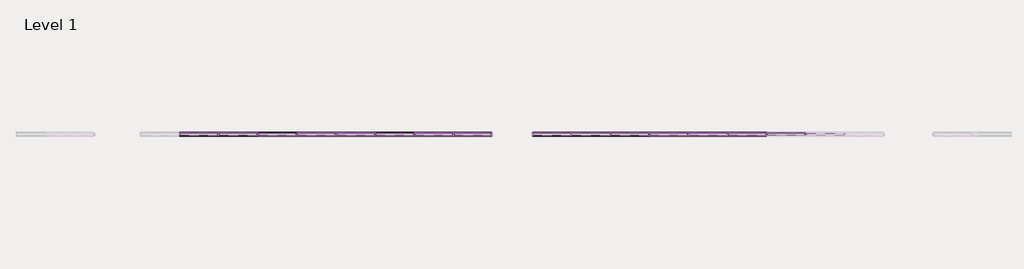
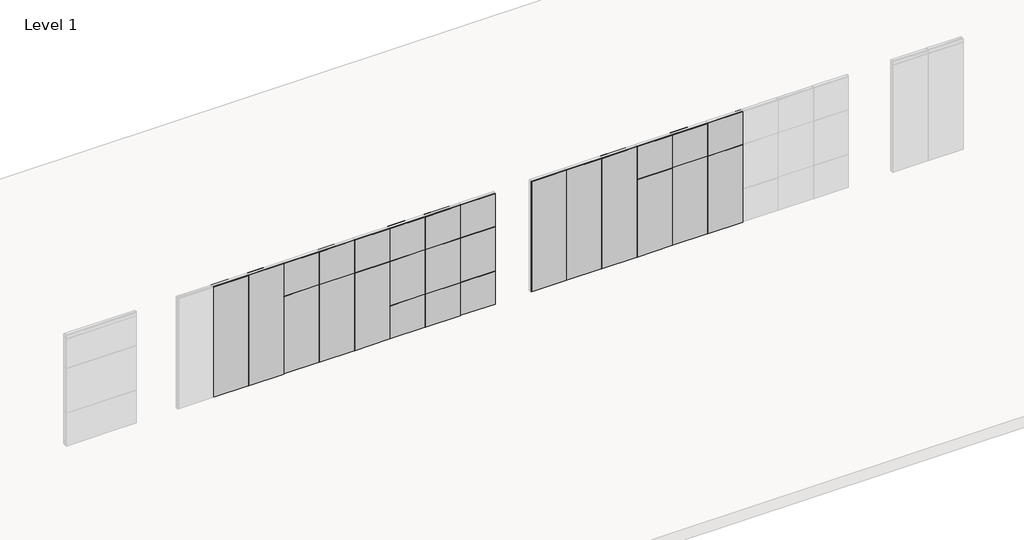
# One storey, part 9 of 22: 108 proxies.
"""IFC4 building model written with IfcOpenShell, lengths in millimetres."""

from ifc_helpers import new_model, si_unit, origin, place, context, project, spatial, transform, mapped, element, save
from components import fascia_teknion_ceiling_and_base_fpb1_33541465, fascia_teknion_ceiling_and_base_fpb1_a659cb20, fascia_teknion_ceiling_and_base_fpb1_fca0640a, fascia_teknion_ceiling_and_base_fpb1_76749516, frame_teknion_horizontal_rail_5872ae1a, frame_teknion_horizontal_rail_46ee653b, level_ii_d92933f0, level_ii_5838736d, level_ii_d9937d3a, level_ii_c8f04d20, monolithic_level_i_61e75e15, monolithic_level_i_13c59c03, monolithic_level_i_9525b381, monolithic_level_i_6e13c29d, monolithic_level_i_b876e52f, segmented_monolithic_level_i_26a9d159, segmented_monolithic_level_i_a3fcbb55, segmented_monolithic_level_i_932c30e3, segmented_monolithic_level_ii_ef75357c, segmented_monolithic_level_ii_062cb124, level_iii_17d9b208, working_wall_monolithic_level_i_ddfac440, working_wall_monolithic_level_i_34c567cd, working_wall_monolithic_level_i_759ace73, working_wall_monolithic_level_i_dc7e04ae, working_wall_monolithic_level_i_f3196e79, working_wall_monolithic_level_iii_b79156b4, working_wall_monolithic_level_iii_e35548a4

model = new_model("IFC4")

# Units and contexts
model_context = context("Model", 3, world=origin())
ifc_project = project(units=[si_unit("LENGTHUNIT", "METRE", prefix="MILLI")], contexts=[model_context])

# Site, building, storey
site = spatial("IfcSite", under=ifc_project)
building = spatial("IfcBuilding", under=site)
storey = spatial("IfcBuildingStorey", under=building, Name="Level 1", Elevation=0.0)

# Proxies
placement = place(None, origin())
fascia_teknion_ceiling_and_base_fpb1_shape = fascia_teknion_ceiling_and_base_fpb1_33541465(model_context)
element("IfcBuildingElementProxy", 1, Name="Fascia-Teknion-Ceiling_and_Base : FPB1", ObjectType="Fascia-Teknion-Ceiling_and_Base : FPB1", at=placement, inside=storey, context=model_context, shape_type="MappedRepresentation", body=[
    mapped(fascia_teknion_ceiling_and_base_fpb1_shape, transform((-45272.1636663, 1843.3402105, 15.875), x_axis=(1.0, 0.0, 0.0), y_axis=(0.0, 1.0, 0.0), z_axis=(0.0, 0.0, 1.0))),
])
fascia_teknion_ceiling_and_base_fpb1_2_shape = fascia_teknion_ceiling_and_base_fpb1_a659cb20(model_context)
element("IfcBuildingElementProxy", 2, Name="Fascia-Teknion-Ceiling_and_Base : FPB1", ObjectType="Fascia-Teknion-Ceiling_and_Base : FPB1", at=placement, inside=storey, context=model_context, shape_type="MappedRepresentation", body=[
    mapped(fascia_teknion_ceiling_and_base_fpb1_2_shape, transform((-51665.9687444, 1843.3402105, 15.875), x_axis=(1.0, 0.0, 0.0), y_axis=(0.0, 1.0, 0.0), z_axis=(0.0, 0.0, 1.0))),
])
element("IfcBuildingElementProxy", 3, Name="Fascia-Teknion-Ceiling_and_Base : FPB1", ObjectType="Fascia-Teknion-Ceiling_and_Base : FPB1", at=placement, inside=storey, context=model_context, shape_type="MappedRepresentation", body=[
    mapped(fascia_teknion_ceiling_and_base_fpb1_2_shape, transform((-50751.5687444, 1843.3402105, 15.875), x_axis=(1.0, 0.0, 0.0), y_axis=(0.0, 1.0, 0.0), z_axis=(0.0, 0.0, 1.0))),
])
element("IfcBuildingElementProxy", 4, Name="Fascia-Teknion-Ceiling_and_Base : FPB1", ObjectType="Fascia-Teknion-Ceiling_and_Base : FPB1", at=placement, inside=storey, context=model_context, shape_type="MappedRepresentation", body=[
    mapped(fascia_teknion_ceiling_and_base_fpb1_2_shape, transform((-48922.7687444, 1843.3402105, 15.875), x_axis=(1.0, 0.0, 0.0), y_axis=(0.0, 1.0, 0.0), z_axis=(0.0, 0.0, 1.0))),
])
element("IfcBuildingElementProxy", 5, Name="Fascia-Teknion-Ceiling_and_Base : FPB1", ObjectType="Fascia-Teknion-Ceiling_and_Base : FPB1", at=placement, inside=storey, context=model_context, shape_type="MappedRepresentation", body=[
    mapped(fascia_teknion_ceiling_and_base_fpb1_2_shape, transform((-48008.3687444, 1843.3402105, 15.875), x_axis=(1.0, 0.0, 0.0), y_axis=(0.0, 1.0, 0.0), z_axis=(0.0, 0.0, 1.0))),
])
element("IfcBuildingElementProxy", 6, Name="Fascia-Teknion-Ceiling_and_Base : FPB1", ObjectType="Fascia-Teknion-Ceiling_and_Base : FPB1", at=placement, inside=storey, context=model_context, shape_type="MappedRepresentation", body=[
    mapped(fascia_teknion_ceiling_and_base_fpb1_2_shape, transform((-46179.5687444, 1843.3402105, 15.875), x_axis=(1.0, 0.0, 0.0), y_axis=(0.0, 1.0, 0.0), z_axis=(0.0, 0.0, 1.0))),
])
element("IfcBuildingElementProxy", 7, Name="Fascia-Teknion-Ceiling_and_Base : FPB1", ObjectType="Fascia-Teknion-Ceiling_and_Base : FPB1", at=placement, inside=storey, context=model_context, shape_type="MappedRepresentation", body=[
    mapped(fascia_teknion_ceiling_and_base_fpb1_2_shape, transform((-49837.1687444, 1843.3402105, 15.875), x_axis=(1.0, 0.0, 0.0), y_axis=(0.0, 1.0, 0.0), z_axis=(0.0, 0.0, 1.0))),
])
element("IfcBuildingElementProxy", 8, Name="Fascia-Teknion-Ceiling_and_Base : FPB1", ObjectType="Fascia-Teknion-Ceiling_and_Base : FPB1", at=placement, inside=storey, context=model_context, shape_type="MappedRepresentation", body=[
    mapped(fascia_teknion_ceiling_and_base_fpb1_2_shape, transform((-47093.9687444, 1843.3402105, 15.875), x_axis=(1.0, 0.0, 0.0), y_axis=(0.0, 1.0, 0.0), z_axis=(0.0, 0.0, 1.0))),
])
fascia_teknion_ceiling_and_base_fpb1_3_shape = fascia_teknion_ceiling_and_base_fpb1_fca0640a(model_context)
element("IfcBuildingElementProxy", 9, Name="Fascia-Teknion-Ceiling_and_Base : FPC", ObjectType="Fascia-Teknion-Ceiling_and_Base : FPC", at=placement, inside=storey, context=model_context, shape_type="MappedRepresentation", body=[
    mapped(fascia_teknion_ceiling_and_base_fpb1_3_shape, transform((-42521.9687444, 1843.3402105, 2950.845), x_axis=(1.0, 0.0, 0.0), y_axis=(0.0, 1.0, 0.0), z_axis=(0.0, 0.0, 1.0))),
])
element("IfcBuildingElementProxy", 10, Name="Fascia-Teknion-Ceiling_and_Base : FPC", ObjectType="Fascia-Teknion-Ceiling_and_Base : FPC", at=placement, inside=storey, context=model_context, shape_type="MappedRepresentation", body=[
    mapped(fascia_teknion_ceiling_and_base_fpb1_3_shape, transform((-40693.1687444, 1843.3402105, 2950.845), x_axis=(1.0, 0.0, 0.0), y_axis=(0.0, 1.0, 0.0), z_axis=(0.0, 0.0, 1.0))),
])
element("IfcBuildingElementProxy", 11, Name="Fascia-Teknion-Ceiling_and_Base : FPC", ObjectType="Fascia-Teknion-Ceiling_and_Base : FPC", at=placement, inside=storey, context=model_context, shape_type="MappedRepresentation", body=[
    mapped(fascia_teknion_ceiling_and_base_fpb1_3_shape, transform((-39778.7687444, 1843.3402105, 2950.845), x_axis=(1.0, 0.0, 0.0), y_axis=(0.0, 1.0, 0.0), z_axis=(0.0, 0.0, 1.0))),
])
element("IfcBuildingElementProxy", 12, Name="Fascia-Teknion-Ceiling_and_Base : FPC", ObjectType="Fascia-Teknion-Ceiling_and_Base : FPC", at=placement, inside=storey, context=model_context, shape_type="MappedRepresentation", body=[
    mapped(fascia_teknion_ceiling_and_base_fpb1_3_shape, transform((-37949.9687444, 1843.3402105, 2950.845), x_axis=(1.0, 0.0, 0.0), y_axis=(0.0, 1.0, 0.0), z_axis=(0.0, 0.0, 1.0))),
])
element("IfcBuildingElementProxy", 13, Name="Fascia-Teknion-Ceiling_and_Base : FPC", ObjectType="Fascia-Teknion-Ceiling_and_Base : FPC", at=placement, inside=storey, context=model_context, shape_type="MappedRepresentation", body=[
    mapped(fascia_teknion_ceiling_and_base_fpb1_3_shape, transform((-41607.5687444, 1843.3402105, 2950.845), x_axis=(1.0, 0.0, 0.0), y_axis=(0.0, 1.0, 0.0), z_axis=(0.0, 0.0, 1.0))),
])
element("IfcBuildingElementProxy", 14, Name="Fascia-Teknion-Ceiling_and_Base : FPC", ObjectType="Fascia-Teknion-Ceiling_and_Base : FPC", at=placement, inside=storey, context=model_context, shape_type="MappedRepresentation", body=[
    mapped(fascia_teknion_ceiling_and_base_fpb1_3_shape, transform((-38864.3687444, 1843.3402105, 2950.845), x_axis=(1.0, 0.0, 0.0), y_axis=(0.0, 1.0, 0.0), z_axis=(0.0, 0.0, 1.0))),
])
fascia_teknion_ceiling_and_base_fpb1_4_shape = fascia_teknion_ceiling_and_base_fpb1_76749516(model_context)
element("IfcBuildingElementProxy", 15, Name="Fascia-Teknion-Ceiling_and_Base : FPC", ObjectType="Fascia-Teknion-Ceiling_and_Base : FPC", at=placement, inside=storey, context=model_context, shape_type="MappedRepresentation", body=[
    mapped(fascia_teknion_ceiling_and_base_fpb1_4_shape, transform((-43429.3738225, 1843.3402105, 2950.845), x_axis=(1.0, 0.0, 0.0), y_axis=(0.0, 1.0, 0.0), z_axis=(0.0, 0.0, 1.0))),
])
frame_teknion_horizontal_rail_shape = frame_teknion_horizontal_rail_5872ae1a(model_context)
element("IfcBuildingElementProxy", 16, Name="Frame-Teknion-Horizontal_Rail : FPKK", ObjectType="Frame-Teknion-Horizontal_Rail : FPKK", at=placement, inside=storey, context=model_context, shape_type="MappedRepresentation", body=[
    mapped(frame_teknion_horizontal_rail_shape, transform((-43429.3738225, 1812.3522105, 2949.1305), x_axis=(1.0, 0.0, 0.0), y_axis=(0.0, 1.0, 0.0), z_axis=(0.0, 0.0, 1.0))),
])
element("IfcBuildingElementProxy", 17, Name="Frame-Teknion-Horizontal_Rail : FPKK", ObjectType="Frame-Teknion-Horizontal_Rail : FPKK", at=placement, inside=storey, context=model_context, shape_type="MappedRepresentation", body=[
    mapped(frame_teknion_horizontal_rail_shape, transform((-45272.1636663, 1812.3522105, 917.575), x_axis=(1.0, 0.0, 0.0), y_axis=(0.0, 1.0, 0.0), z_axis=(0.0, 0.0, 1.0))),
])
element("IfcBuildingElementProxy", 18, Name="Frame-Teknion-Horizontal_Rail : FPKK", ObjectType="Frame-Teknion-Horizontal_Rail : FPKK", at=placement, inside=storey, context=model_context, shape_type="MappedRepresentation", body=[
    mapped(frame_teknion_horizontal_rail_shape, transform((-45272.1636663, 1812.3522105, 2136.775), x_axis=(1.0, 0.0, 0.0), y_axis=(0.0, 1.0, 0.0), z_axis=(0.0, 0.0, 1.0))),
])
element("IfcBuildingElementProxy", 19, Name="Frame-Teknion-Horizontal_Rail : FPKK", ObjectType="Frame-Teknion-Horizontal_Rail : FPKK", at=placement, inside=storey, context=model_context, shape_type="MappedRepresentation", body=[
    mapped(frame_teknion_horizontal_rail_shape, transform((-45272.1636663, 1812.3522105, 151.257), x_axis=(1.0, 0.0, 0.0), y_axis=(0.0, 1.0, 0.0), z_axis=(0.0, 0.0, 1.0))),
])
frame_teknion_horizontal_rail_2_shape = frame_teknion_horizontal_rail_46ee653b(model_context)
element("IfcBuildingElementProxy", 20, Name="Frame-Teknion-Horizontal_Rail : FPKK", ObjectType="Frame-Teknion-Horizontal_Rail : FPKK", at=placement, inside=storey, context=model_context, shape_type="MappedRepresentation", body=[
    mapped(frame_teknion_horizontal_rail_2_shape, transform((-51665.9687444, 1812.3522105, 2136.775), x_axis=(1.0, 0.0, 0.0), y_axis=(0.0, 1.0, 0.0), z_axis=(0.0, 0.0, 1.0))),
])
element("IfcBuildingElementProxy", 21, Name="Frame-Teknion-Horizontal_Rail : FPKK", ObjectType="Frame-Teknion-Horizontal_Rail : FPKK", at=placement, inside=storey, context=model_context, shape_type="MappedRepresentation", body=[
    mapped(frame_teknion_horizontal_rail_2_shape, transform((-51665.9687444, 1812.3522105, 151.257), x_axis=(1.0, 0.0, 0.0), y_axis=(0.0, 1.0, 0.0), z_axis=(0.0, 0.0, 1.0))),
])
element("IfcBuildingElementProxy", 22, Name="Frame-Teknion-Horizontal_Rail : FPKK", ObjectType="Frame-Teknion-Horizontal_Rail : FPKK", at=placement, inside=storey, context=model_context, shape_type="MappedRepresentation", body=[
    mapped(frame_teknion_horizontal_rail_2_shape, transform((-50751.5687444, 1812.3522105, 917.575), x_axis=(1.0, 0.0, 0.0), y_axis=(0.0, 1.0, 0.0), z_axis=(0.0, 0.0, 1.0))),
])
element("IfcBuildingElementProxy", 23, Name="Frame-Teknion-Horizontal_Rail : FPKK", ObjectType="Frame-Teknion-Horizontal_Rail : FPKK", at=placement, inside=storey, context=model_context, shape_type="MappedRepresentation", body=[
    mapped(frame_teknion_horizontal_rail_2_shape, transform((-50751.5687444, 1812.3522105, 2136.775), x_axis=(1.0, 0.0, 0.0), y_axis=(0.0, 1.0, 0.0), z_axis=(0.0, 0.0, 1.0))),
])
element("IfcBuildingElementProxy", 24, Name="Frame-Teknion-Horizontal_Rail : FPKK", ObjectType="Frame-Teknion-Horizontal_Rail : FPKK", at=placement, inside=storey, context=model_context, shape_type="MappedRepresentation", body=[
    mapped(frame_teknion_horizontal_rail_2_shape, transform((-50751.5687444, 1812.3522105, 151.257), x_axis=(1.0, 0.0, 0.0), y_axis=(0.0, 1.0, 0.0), z_axis=(0.0, 0.0, 1.0))),
])
element("IfcBuildingElementProxy", 25, Name="Frame-Teknion-Horizontal_Rail : FPKK", ObjectType="Frame-Teknion-Horizontal_Rail : FPKK", at=placement, inside=storey, context=model_context, shape_type="MappedRepresentation", body=[
    mapped(frame_teknion_horizontal_rail_2_shape, transform((-49837.1687444, 1812.3522105, 2136.775), x_axis=(1.0, 0.0, 0.0), y_axis=(0.0, 1.0, 0.0), z_axis=(0.0, 0.0, 1.0))),
])
element("IfcBuildingElementProxy", 26, Name="Frame-Teknion-Horizontal_Rail : FPKK", ObjectType="Frame-Teknion-Horizontal_Rail : FPKK", at=placement, inside=storey, context=model_context, shape_type="MappedRepresentation", body=[
    mapped(frame_teknion_horizontal_rail_2_shape, transform((-49837.1687444, 1812.3522105, 151.257), x_axis=(1.0, 0.0, 0.0), y_axis=(0.0, 1.0, 0.0), z_axis=(0.0, 0.0, 1.0))),
])
element("IfcBuildingElementProxy", 27, Name="Frame-Teknion-Horizontal_Rail : FPKK", ObjectType="Frame-Teknion-Horizontal_Rail : FPKK", at=placement, inside=storey, context=model_context, shape_type="MappedRepresentation", body=[
    mapped(frame_teknion_horizontal_rail_2_shape, transform((-48922.7687444, 1812.3522105, 2136.775), x_axis=(1.0, 0.0, 0.0), y_axis=(0.0, 1.0, 0.0), z_axis=(0.0, 0.0, 1.0))),
])
element("IfcBuildingElementProxy", 28, Name="Frame-Teknion-Horizontal_Rail : FPKK", ObjectType="Frame-Teknion-Horizontal_Rail : FPKK", at=placement, inside=storey, context=model_context, shape_type="MappedRepresentation", body=[
    mapped(frame_teknion_horizontal_rail_2_shape, transform((-48922.7687444, 1812.3522105, 151.257), x_axis=(1.0, 0.0, 0.0), y_axis=(0.0, 1.0, 0.0), z_axis=(0.0, 0.0, 1.0))),
])
element("IfcBuildingElementProxy", 29, Name="Frame-Teknion-Horizontal_Rail : FPKK", ObjectType="Frame-Teknion-Horizontal_Rail : FPKK", at=placement, inside=storey, context=model_context, shape_type="MappedRepresentation", body=[
    mapped(frame_teknion_horizontal_rail_2_shape, transform((-48008.3687444, 1812.3522105, 917.575), x_axis=(1.0, 0.0, 0.0), y_axis=(0.0, 1.0, 0.0), z_axis=(0.0, 0.0, 1.0))),
])
element("IfcBuildingElementProxy", 30, Name="Frame-Teknion-Horizontal_Rail : FPKK", ObjectType="Frame-Teknion-Horizontal_Rail : FPKK", at=placement, inside=storey, context=model_context, shape_type="MappedRepresentation", body=[
    mapped(frame_teknion_horizontal_rail_2_shape, transform((-48008.3687444, 1812.3522105, 2136.775), x_axis=(1.0, 0.0, 0.0), y_axis=(0.0, 1.0, 0.0), z_axis=(0.0, 0.0, 1.0))),
])
element("IfcBuildingElementProxy", 31, Name="Frame-Teknion-Horizontal_Rail : FPKK", ObjectType="Frame-Teknion-Horizontal_Rail : FPKK", at=placement, inside=storey, context=model_context, shape_type="MappedRepresentation", body=[
    mapped(frame_teknion_horizontal_rail_2_shape, transform((-48008.3687444, 1812.3522105, 151.257), x_axis=(1.0, 0.0, 0.0), y_axis=(0.0, 1.0, 0.0), z_axis=(0.0, 0.0, 1.0))),
])
element("IfcBuildingElementProxy", 32, Name="Frame-Teknion-Horizontal_Rail : FPKK", ObjectType="Frame-Teknion-Horizontal_Rail : FPKK", at=placement, inside=storey, context=model_context, shape_type="MappedRepresentation", body=[
    mapped(frame_teknion_horizontal_rail_2_shape, transform((-47093.9687444, 1812.3522105, 917.575), x_axis=(1.0, 0.0, 0.0), y_axis=(0.0, 1.0, 0.0), z_axis=(0.0, 0.0, 1.0))),
])
element("IfcBuildingElementProxy", 33, Name="Frame-Teknion-Horizontal_Rail : FPKK", ObjectType="Frame-Teknion-Horizontal_Rail : FPKK", at=placement, inside=storey, context=model_context, shape_type="MappedRepresentation", body=[
    mapped(frame_teknion_horizontal_rail_2_shape, transform((-47093.9687444, 1812.3522105, 2136.775), x_axis=(1.0, 0.0, 0.0), y_axis=(0.0, 1.0, 0.0), z_axis=(0.0, 0.0, 1.0))),
])
element("IfcBuildingElementProxy", 34, Name="Frame-Teknion-Horizontal_Rail : FPKK", ObjectType="Frame-Teknion-Horizontal_Rail : FPKK", at=placement, inside=storey, context=model_context, shape_type="MappedRepresentation", body=[
    mapped(frame_teknion_horizontal_rail_2_shape, transform((-47093.9687444, 1812.3522105, 151.257), x_axis=(1.0, 0.0, 0.0), y_axis=(0.0, 1.0, 0.0), z_axis=(0.0, 0.0, 1.0))),
])
element("IfcBuildingElementProxy", 35, Name="Frame-Teknion-Horizontal_Rail : FPKK", ObjectType="Frame-Teknion-Horizontal_Rail : FPKK", at=placement, inside=storey, context=model_context, shape_type="MappedRepresentation", body=[
    mapped(frame_teknion_horizontal_rail_2_shape, transform((-46179.5687444, 1812.3522105, 917.575), x_axis=(1.0, 0.0, 0.0), y_axis=(0.0, 1.0, 0.0), z_axis=(0.0, 0.0, 1.0))),
])
element("IfcBuildingElementProxy", 36, Name="Frame-Teknion-Horizontal_Rail : FPKK", ObjectType="Frame-Teknion-Horizontal_Rail : FPKK", at=placement, inside=storey, context=model_context, shape_type="MappedRepresentation", body=[
    mapped(frame_teknion_horizontal_rail_2_shape, transform((-46179.5687444, 1812.3522105, 2136.775), x_axis=(1.0, 0.0, 0.0), y_axis=(0.0, 1.0, 0.0), z_axis=(0.0, 0.0, 1.0))),
])
element("IfcBuildingElementProxy", 37, Name="Frame-Teknion-Horizontal_Rail : FPKK", ObjectType="Frame-Teknion-Horizontal_Rail : FPKK", at=placement, inside=storey, context=model_context, shape_type="MappedRepresentation", body=[
    mapped(frame_teknion_horizontal_rail_2_shape, transform((-46179.5687444, 1812.3522105, 151.257), x_axis=(1.0, 0.0, 0.0), y_axis=(0.0, 1.0, 0.0), z_axis=(0.0, 0.0, 1.0))),
])
element("IfcBuildingElementProxy", 38, Name="Frame-Teknion-Horizontal_Rail : FPKK", ObjectType="Frame-Teknion-Horizontal_Rail : FPKK", at=placement, inside=storey, context=model_context, shape_type="MappedRepresentation", body=[
    mapped(frame_teknion_horizontal_rail_2_shape, transform((-42521.9687444, 1812.3522105, 2136.775), x_axis=(1.0, 0.0, 0.0), y_axis=(0.0, 1.0, 0.0), z_axis=(0.0, 0.0, 1.0))),
])
element("IfcBuildingElementProxy", 39, Name="Frame-Teknion-Horizontal_Rail : FPKK", ObjectType="Frame-Teknion-Horizontal_Rail : FPKK", at=placement, inside=storey, context=model_context, shape_type="MappedRepresentation", body=[
    mapped(frame_teknion_horizontal_rail_2_shape, transform((-42521.9687444, 1812.3522105, 2949.1305), x_axis=(1.0, 0.0, 0.0), y_axis=(0.0, 1.0, 0.0), z_axis=(0.0, 0.0, 1.0))),
])
element("IfcBuildingElementProxy", 40, Name="Frame-Teknion-Horizontal_Rail : FPKK", ObjectType="Frame-Teknion-Horizontal_Rail : FPKK", at=placement, inside=storey, context=model_context, shape_type="MappedRepresentation", body=[
    mapped(frame_teknion_horizontal_rail_2_shape, transform((-41607.5687444, 1812.3522105, 917.575), x_axis=(1.0, 0.0, 0.0), y_axis=(0.0, 1.0, 0.0), z_axis=(0.0, 0.0, 1.0))),
])
element("IfcBuildingElementProxy", 41, Name="Frame-Teknion-Horizontal_Rail : FPKK", ObjectType="Frame-Teknion-Horizontal_Rail : FPKK", at=placement, inside=storey, context=model_context, shape_type="MappedRepresentation", body=[
    mapped(frame_teknion_horizontal_rail_2_shape, transform((-41607.5687444, 1812.3522105, 2136.775), x_axis=(1.0, 0.0, 0.0), y_axis=(0.0, 1.0, 0.0), z_axis=(0.0, 0.0, 1.0))),
])
element("IfcBuildingElementProxy", 42, Name="Frame-Teknion-Horizontal_Rail : FPKK", ObjectType="Frame-Teknion-Horizontal_Rail : FPKK", at=placement, inside=storey, context=model_context, shape_type="MappedRepresentation", body=[
    mapped(frame_teknion_horizontal_rail_2_shape, transform((-41607.5687444, 1812.3522105, 2949.1305), x_axis=(1.0, 0.0, 0.0), y_axis=(0.0, 1.0, 0.0), z_axis=(0.0, 0.0, 1.0))),
])
element("IfcBuildingElementProxy", 43, Name="Frame-Teknion-Horizontal_Rail : FPKK", ObjectType="Frame-Teknion-Horizontal_Rail : FPKK", at=placement, inside=storey, context=model_context, shape_type="MappedRepresentation", body=[
    mapped(frame_teknion_horizontal_rail_2_shape, transform((-40693.1687444, 1812.3522105, 917.575), x_axis=(1.0, 0.0, 0.0), y_axis=(0.0, 1.0, 0.0), z_axis=(0.0, 0.0, 1.0))),
])
element("IfcBuildingElementProxy", 44, Name="Frame-Teknion-Horizontal_Rail : FPKK", ObjectType="Frame-Teknion-Horizontal_Rail : FPKK", at=placement, inside=storey, context=model_context, shape_type="MappedRepresentation", body=[
    mapped(frame_teknion_horizontal_rail_2_shape, transform((-40693.1687444, 1812.3522105, 2949.1305), x_axis=(1.0, 0.0, 0.0), y_axis=(0.0, 1.0, 0.0), z_axis=(0.0, 0.0, 1.0))),
])
element("IfcBuildingElementProxy", 45, Name="Frame-Teknion-Horizontal_Rail : FPKK", ObjectType="Frame-Teknion-Horizontal_Rail : FPKK", at=placement, inside=storey, context=model_context, shape_type="MappedRepresentation", body=[
    mapped(frame_teknion_horizontal_rail_2_shape, transform((-39778.7687444, 1812.3522105, 2136.775), x_axis=(1.0, 0.0, 0.0), y_axis=(0.0, 1.0, 0.0), z_axis=(0.0, 0.0, 1.0))),
])
element("IfcBuildingElementProxy", 46, Name="Frame-Teknion-Horizontal_Rail : FPKK", ObjectType="Frame-Teknion-Horizontal_Rail : FPKK", at=placement, inside=storey, context=model_context, shape_type="MappedRepresentation", body=[
    mapped(frame_teknion_horizontal_rail_2_shape, transform((-39778.7687444, 1812.3522105, 2949.1305), x_axis=(1.0, 0.0, 0.0), y_axis=(0.0, 1.0, 0.0), z_axis=(0.0, 0.0, 1.0))),
])
element("IfcBuildingElementProxy", 47, Name="Frame-Teknion-Horizontal_Rail : FPKK", ObjectType="Frame-Teknion-Horizontal_Rail : FPKK", at=placement, inside=storey, context=model_context, shape_type="MappedRepresentation", body=[
    mapped(frame_teknion_horizontal_rail_2_shape, transform((-38864.3687444, 1812.3522105, 917.575), x_axis=(1.0, 0.0, 0.0), y_axis=(0.0, 1.0, 0.0), z_axis=(0.0, 0.0, 1.0))),
])
element("IfcBuildingElementProxy", 48, Name="Frame-Teknion-Horizontal_Rail : FPKK", ObjectType="Frame-Teknion-Horizontal_Rail : FPKK", at=placement, inside=storey, context=model_context, shape_type="MappedRepresentation", body=[
    mapped(frame_teknion_horizontal_rail_2_shape, transform((-38864.3687444, 1812.3522105, 2136.775), x_axis=(1.0, 0.0, 0.0), y_axis=(0.0, 1.0, 0.0), z_axis=(0.0, 0.0, 1.0))),
])
element("IfcBuildingElementProxy", 49, Name="Frame-Teknion-Horizontal_Rail : FPKK", ObjectType="Frame-Teknion-Horizontal_Rail : FPKK", at=placement, inside=storey, context=model_context, shape_type="MappedRepresentation", body=[
    mapped(frame_teknion_horizontal_rail_2_shape, transform((-38864.3687444, 1812.3522105, 2949.1305), x_axis=(1.0, 0.0, 0.0), y_axis=(0.0, 1.0, 0.0), z_axis=(0.0, 0.0, 1.0))),
])
element("IfcBuildingElementProxy", 50, Name="Frame-Teknion-Horizontal_Rail : FPKK", ObjectType="Frame-Teknion-Horizontal_Rail : FPKK", at=placement, inside=storey, context=model_context, shape_type="MappedRepresentation", body=[
    mapped(frame_teknion_horizontal_rail_2_shape, transform((-37949.9687444, 1812.3522105, 917.575), x_axis=(1.0, 0.0, 0.0), y_axis=(0.0, 1.0, 0.0), z_axis=(0.0, 0.0, 1.0))),
])
element("IfcBuildingElementProxy", 51, Name="Frame-Teknion-Horizontal_Rail : FPKK", ObjectType="Frame-Teknion-Horizontal_Rail : FPKK", at=placement, inside=storey, context=model_context, shape_type="MappedRepresentation", body=[
    mapped(frame_teknion_horizontal_rail_2_shape, transform((-37949.9687444, 1812.3522105, 2949.1305), x_axis=(1.0, 0.0, 0.0), y_axis=(0.0, 1.0, 0.0), z_axis=(0.0, 0.0, 1.0))),
])
element("IfcBuildingElementProxy", 52, Name="Frame-Teknion-Horizontal_Rail : FPKK", ObjectType="Frame-Teknion-Horizontal_Rail : FPKK", at=placement, inside=storey, context=model_context, shape_type="MappedRepresentation", body=[
    mapped(frame_teknion_horizontal_rail_2_shape, transform((-37035.5687444, 1812.3522105, 2136.775), x_axis=(1.0, 0.0, 0.0), y_axis=(0.0, 1.0, 0.0), z_axis=(0.0, 0.0, 1.0))),
])
element("IfcBuildingElementProxy", 53, Name="Frame-Teknion-Horizontal_Rail : FPKK", ObjectType="Frame-Teknion-Horizontal_Rail : FPKK", at=placement, inside=storey, context=model_context, shape_type="MappedRepresentation", body=[
    mapped(frame_teknion_horizontal_rail_2_shape, transform((-37035.5687444, 1812.3522105, 2949.1305), x_axis=(1.0, 0.0, 0.0), y_axis=(0.0, 1.0, 0.0), z_axis=(0.0, 0.0, 1.0))),
])
level_ii_shape = level_ii_d92933f0(model_context)
element("IfcBuildingElementProxy", 54, Name="Panel-Fascia-Teknion-Altos-Standard : Level II", ObjectType="Panel-Fascia-Teknion-Altos-Standard : Level II", at=placement, inside=storey, context=model_context, shape_type="MappedRepresentation", body=[
    mapped(level_ii_shape, transform((-45272.1636663, 1852.8652105, 917.575), x_axis=(1.0, 0.0, 0.0), y_axis=(0.0, 1.0, 0.0), z_axis=(0.0, 0.0, 1.0))),
])
level_ii_2_shape = level_ii_5838736d(model_context)
element("IfcBuildingElementProxy", 55, Name="Panel-Fascia-Teknion-Altos-Standard : Level II", ObjectType="Panel-Fascia-Teknion-Altos-Standard : Level II", at=placement, inside=storey, context=model_context, shape_type="MappedRepresentation", body=[
    mapped(level_ii_2_shape, transform((-50751.5687444, 1852.8652105, 917.575), x_axis=(1.0, 0.0, 0.0), y_axis=(0.0, 1.0, 0.0), z_axis=(0.0, 0.0, 1.0))),
])
element("IfcBuildingElementProxy", 56, Name="Panel-Fascia-Teknion-Altos-Standard : Level II", ObjectType="Panel-Fascia-Teknion-Altos-Standard : Level II", at=placement, inside=storey, context=model_context, shape_type="MappedRepresentation", body=[
    mapped(level_ii_2_shape, transform((-48008.3687444, 1852.8652105, 917.575), x_axis=(1.0, 0.0, 0.0), y_axis=(0.0, 1.0, 0.0), z_axis=(0.0, 0.0, 1.0))),
])
element("IfcBuildingElementProxy", 57, Name="Panel-Fascia-Teknion-Altos-Standard : Level II", ObjectType="Panel-Fascia-Teknion-Altos-Standard : Level II", at=placement, inside=storey, context=model_context, shape_type="MappedRepresentation", body=[
    mapped(level_ii_2_shape, transform((-41607.5687444, 1852.8652105, 917.575), x_axis=(1.0, 0.0, 0.0), y_axis=(0.0, 1.0, 0.0), z_axis=(0.0, 0.0, 1.0))),
])
element("IfcBuildingElementProxy", 58, Name="Panel-Fascia-Teknion-Altos-Standard : Level II", ObjectType="Panel-Fascia-Teknion-Altos-Standard : Level II", at=placement, inside=storey, context=model_context, shape_type="MappedRepresentation", body=[
    mapped(level_ii_2_shape, transform((-38864.3687444, 1852.8652105, 917.575), x_axis=(1.0, 0.0, 0.0), y_axis=(0.0, 1.0, 0.0), z_axis=(0.0, 0.0, 1.0))),
])
level_ii_3_shape = level_ii_d9937d3a(model_context)
element("IfcBuildingElementProxy", 59, Name="Panel-Fascia-Teknion-Altos-Standard : Level II", ObjectType="Panel-Fascia-Teknion-Altos-Standard : Level II", at=placement, inside=storey, context=model_context, shape_type="MappedRepresentation", body=[
    mapped(level_ii_3_shape, transform((-45272.1636663, 1771.8392105, 917.575), x_axis=(1.0, 0.0, 0.0), y_axis=(0.0, 1.0, 0.0), z_axis=(0.0, 0.0, 1.0))),
])
level_ii_4_shape = level_ii_c8f04d20(model_context)
element("IfcBuildingElementProxy", 60, Name="Panel-Fascia-Teknion-Altos-Standard : Level II", ObjectType="Panel-Fascia-Teknion-Altos-Standard : Level II", at=placement, inside=storey, context=model_context, shape_type="MappedRepresentation", body=[
    mapped(level_ii_4_shape, transform((-47093.9687444, 1771.8392105, 917.575), x_axis=(1.0, 0.0, 0.0), y_axis=(0.0, 1.0, 0.0), z_axis=(0.0, 0.0, 1.0))),
])
element("IfcBuildingElementProxy", 61, Name="Panel-Fascia-Teknion-Altos-Standard : Level II", ObjectType="Panel-Fascia-Teknion-Altos-Standard : Level II", at=placement, inside=storey, context=model_context, shape_type="MappedRepresentation", body=[
    mapped(level_ii_4_shape, transform((-46179.5687444, 1771.8392105, 917.575), x_axis=(1.0, 0.0, 0.0), y_axis=(0.0, 1.0, 0.0), z_axis=(0.0, 0.0, 1.0))),
])
monolithic_level_i_shape = monolithic_level_i_61e75e15(model_context)
element("IfcBuildingElementProxy", 62, Name="Panel-Fascia-Teknion-Altos-Standard : Monolithic Level I", ObjectType="Panel-Fascia-Teknion-Altos-Standard : Monolithic Level I", at=placement, inside=storey, context=model_context, shape_type="MappedRepresentation", body=[
    mapped(monolithic_level_i_shape, transform((-43429.3738225, 1771.8392105, 12.7), x_axis=(1.0, 0.0, 0.0), y_axis=(0.0, 1.0, 0.0), z_axis=(0.0, 0.0, 1.0))),
])
monolithic_level_i_2_shape = monolithic_level_i_13c59c03(model_context)
element("IfcBuildingElementProxy", 63, Name="Panel-Fascia-Teknion-Altos-Standard : Monolithic Level I", ObjectType="Panel-Fascia-Teknion-Altos-Standard : Monolithic Level I", at=placement, inside=storey, context=model_context, shape_type="MappedRepresentation", body=[
    mapped(monolithic_level_i_2_shape, transform((-42521.9687444, 1771.8392105, 12.7), x_axis=(1.0, 0.0, 0.0), y_axis=(0.0, 1.0, 0.0), z_axis=(0.0, 0.0, 1.0))),
])
element("IfcBuildingElementProxy", 64, Name="Panel-Fascia-Teknion-Altos-Standard : Monolithic Level I", ObjectType="Panel-Fascia-Teknion-Altos-Standard : Monolithic Level I", at=placement, inside=storey, context=model_context, shape_type="MappedRepresentation", body=[
    mapped(monolithic_level_i_2_shape, transform((-41607.5687444, 1771.8392105, 12.7), x_axis=(1.0, 0.0, 0.0), y_axis=(0.0, 1.0, 0.0), z_axis=(0.0, 0.0, 1.0))),
])
element("IfcBuildingElementProxy", 65, Name="Panel-Fascia-Teknion-Altos-Standard : Monolithic Level I", ObjectType="Panel-Fascia-Teknion-Altos-Standard : Monolithic Level I", at=placement, inside=storey, context=model_context, shape_type="MappedRepresentation", body=[
    mapped(monolithic_level_i_2_shape, transform((-51665.9687444, 1771.8392105, 12.7), x_axis=(1.0, 0.0, 0.0), y_axis=(0.0, 1.0, 0.0), z_axis=(0.0, 0.0, 1.0))),
])
element("IfcBuildingElementProxy", 66, Name="Panel-Fascia-Teknion-Altos-Standard : Monolithic Level I", ObjectType="Panel-Fascia-Teknion-Altos-Standard : Monolithic Level I", at=placement, inside=storey, context=model_context, shape_type="MappedRepresentation", body=[
    mapped(monolithic_level_i_2_shape, transform((-50751.5687444, 1771.8392105, 12.7), x_axis=(1.0, 0.0, 0.0), y_axis=(0.0, 1.0, 0.0), z_axis=(0.0, 0.0, 1.0))),
])
monolithic_level_i_3_shape = monolithic_level_i_9525b381(model_context)
element("IfcBuildingElementProxy", 67, Name="Panel-Fascia-Teknion-Altos-Standard : Monolithic Level I", ObjectType="Panel-Fascia-Teknion-Altos-Standard : Monolithic Level I", at=placement, inside=storey, context=model_context, shape_type="MappedRepresentation", body=[
    mapped(monolithic_level_i_3_shape, transform((-49837.1687444, 1852.8652105, 151.257), x_axis=(1.0, 0.0, 0.0), y_axis=(0.0, 1.0, 0.0), z_axis=(0.0, 0.0, 1.0))),
])
element("IfcBuildingElementProxy", 68, Name="Panel-Fascia-Teknion-Altos-Standard : Monolithic Level I", ObjectType="Panel-Fascia-Teknion-Altos-Standard : Monolithic Level I", at=placement, inside=storey, context=model_context, shape_type="MappedRepresentation", body=[
    mapped(monolithic_level_i_3_shape, transform((-47093.9687444, 1852.8652105, 151.257), x_axis=(1.0, 0.0, 0.0), y_axis=(0.0, 1.0, 0.0), z_axis=(0.0, 0.0, 1.0))),
])
monolithic_level_i_4_shape = monolithic_level_i_6e13c29d(model_context)
element("IfcBuildingElementProxy", 69, Name="Panel-Fascia-Teknion-Altos-Standard : Monolithic Level I", ObjectType="Panel-Fascia-Teknion-Altos-Standard : Monolithic Level I", at=placement, inside=storey, context=model_context, shape_type="MappedRepresentation", body=[
    mapped(monolithic_level_i_4_shape, transform((-43429.3738225, 1852.8652105, 12.7), x_axis=(1.0, 0.0, 0.0), y_axis=(0.0, 1.0, 0.0), z_axis=(0.0, 0.0, 1.0))),
])
monolithic_level_i_5_shape = monolithic_level_i_b876e52f(model_context)
element("IfcBuildingElementProxy", 70, Name="Panel-Fascia-Teknion-Altos-Standard : Monolithic Level I", ObjectType="Panel-Fascia-Teknion-Altos-Standard : Monolithic Level I", at=placement, inside=storey, context=model_context, shape_type="MappedRepresentation", body=[
    mapped(monolithic_level_i_5_shape, transform((-40693.1687444, 1852.8652105, 12.7), x_axis=(1.0, 0.0, 0.0), y_axis=(0.0, 1.0, 0.0), z_axis=(0.0, 0.0, 1.0))),
])
segmented_monolithic_level_i_shape = segmented_monolithic_level_i_26a9d159(model_context)
element("IfcBuildingElementProxy", 71, Name="Panel-Fascia-Teknion-Altos-Standard : Segmented Monolithic Level I", ObjectType="Panel-Fascia-Teknion-Altos-Standard : Segmented Monolithic Level I", at=placement, inside=storey, context=model_context, shape_type="MappedRepresentation", body=[
    mapped(segmented_monolithic_level_i_shape, transform((-48008.3687444, 1771.8392105, 12.7), x_axis=(1.0, 0.0, 0.0), y_axis=(0.0, 1.0, 0.0), z_axis=(0.0, 0.0, 1.0))),
])
element("IfcBuildingElementProxy", 72, Name="Panel-Fascia-Teknion-Altos-Standard : Segmented Monolithic Level I", ObjectType="Panel-Fascia-Teknion-Altos-Standard : Segmented Monolithic Level I", at=placement, inside=storey, context=model_context, shape_type="MappedRepresentation", body=[
    mapped(segmented_monolithic_level_i_shape, transform((-39778.7687444, 1771.8392105, 12.7), x_axis=(1.0, 0.0, 0.0), y_axis=(0.0, 1.0, 0.0), z_axis=(0.0, 0.0, 1.0))),
])
element("IfcBuildingElementProxy", 73, Name="Panel-Fascia-Teknion-Altos-Standard : Segmented Monolithic Level I", ObjectType="Panel-Fascia-Teknion-Altos-Standard : Segmented Monolithic Level I", at=placement, inside=storey, context=model_context, shape_type="MappedRepresentation", body=[
    mapped(segmented_monolithic_level_i_shape, transform((-38864.3687444, 1771.8392105, 12.7), x_axis=(1.0, 0.0, 0.0), y_axis=(0.0, 1.0, 0.0), z_axis=(0.0, 0.0, 1.0))),
])
element("IfcBuildingElementProxy", 74, Name="Panel-Fascia-Teknion-Altos-Standard : Segmented Monolithic Level I", ObjectType="Panel-Fascia-Teknion-Altos-Standard : Segmented Monolithic Level I", at=placement, inside=storey, context=model_context, shape_type="MappedRepresentation", body=[
    mapped(segmented_monolithic_level_i_shape, transform((-49837.1687444, 1771.8392105, 12.7), x_axis=(1.0, 0.0, 0.0), y_axis=(0.0, 1.0, 0.0), z_axis=(0.0, 0.0, 1.0))),
])
element("IfcBuildingElementProxy", 75, Name="Panel-Fascia-Teknion-Altos-Standard : Segmented Monolithic Level I", ObjectType="Panel-Fascia-Teknion-Altos-Standard : Segmented Monolithic Level I", at=placement, inside=storey, context=model_context, shape_type="MappedRepresentation", body=[
    mapped(segmented_monolithic_level_i_shape, transform((-48922.7687444, 1771.8392105, 12.7), x_axis=(1.0, 0.0, 0.0), y_axis=(0.0, 1.0, 0.0), z_axis=(0.0, 0.0, 1.0))),
])
element("IfcBuildingElementProxy", 76, Name="Panel-Fascia-Teknion-Altos-Standard : Segmented Monolithic Level I", ObjectType="Panel-Fascia-Teknion-Altos-Standard : Segmented Monolithic Level I", at=placement, inside=storey, context=model_context, shape_type="MappedRepresentation", body=[
    mapped(segmented_monolithic_level_i_shape, transform((-40693.1687444, 1771.8392105, 12.7), x_axis=(1.0, 0.0, 0.0), y_axis=(0.0, 1.0, 0.0), z_axis=(0.0, 0.0, 1.0))),
])
segmented_monolithic_level_i_2_shape = segmented_monolithic_level_i_a3fcbb55(model_context)
element("IfcBuildingElementProxy", 77, Name="Panel-Fascia-Teknion-Altos-Standard : Segmented Monolithic Level I", ObjectType="Panel-Fascia-Teknion-Altos-Standard : Segmented Monolithic Level I", at=placement, inside=storey, context=model_context, shape_type="MappedRepresentation", body=[
    mapped(segmented_monolithic_level_i_2_shape, transform((-51665.9687444, 1852.8652105, 147.955), x_axis=(1.0, 0.0, 0.0), y_axis=(0.0, 1.0, 0.0), z_axis=(0.0, 0.0, 1.0))),
])
element("IfcBuildingElementProxy", 78, Name="Panel-Fascia-Teknion-Altos-Standard : Segmented Monolithic Level I", ObjectType="Panel-Fascia-Teknion-Altos-Standard : Segmented Monolithic Level I", at=placement, inside=storey, context=model_context, shape_type="MappedRepresentation", body=[
    mapped(segmented_monolithic_level_i_2_shape, transform((-48922.7687444, 1852.8652105, 147.955), x_axis=(1.0, 0.0, 0.0), y_axis=(0.0, 1.0, 0.0), z_axis=(0.0, 0.0, 1.0))),
])
element("IfcBuildingElementProxy", 79, Name="Panel-Fascia-Teknion-Altos-Standard : Segmented Monolithic Level I", ObjectType="Panel-Fascia-Teknion-Altos-Standard : Segmented Monolithic Level I", at=placement, inside=storey, context=model_context, shape_type="MappedRepresentation", body=[
    mapped(segmented_monolithic_level_i_2_shape, transform((-46179.5687444, 1852.8652105, 147.955), x_axis=(1.0, 0.0, 0.0), y_axis=(0.0, 1.0, 0.0), z_axis=(0.0, 0.0, 1.0))),
])
segmented_monolithic_level_i_3_shape = segmented_monolithic_level_i_932c30e3(model_context)
element("IfcBuildingElementProxy", 80, Name="Panel-Fascia-Teknion-Altos-Standard : Segmented Monolithic Level I", ObjectType="Panel-Fascia-Teknion-Altos-Standard : Segmented Monolithic Level I", at=placement, inside=storey, context=model_context, shape_type="MappedRepresentation", body=[
    mapped(segmented_monolithic_level_i_3_shape, transform((-42521.9687444, 1852.8652105, 12.7), x_axis=(1.0, 0.0, 0.0), y_axis=(0.0, 1.0, 0.0), z_axis=(0.0, 0.0, 1.0))),
])
element("IfcBuildingElementProxy", 81, Name="Panel-Fascia-Teknion-Altos-Standard : Segmented Monolithic Level I", ObjectType="Panel-Fascia-Teknion-Altos-Standard : Segmented Monolithic Level I", at=placement, inside=storey, context=model_context, shape_type="MappedRepresentation", body=[
    mapped(segmented_monolithic_level_i_3_shape, transform((-39778.7687444, 1852.8652105, 12.7), x_axis=(1.0, 0.0, 0.0), y_axis=(0.0, 1.0, 0.0), z_axis=(0.0, 0.0, 1.0))),
])
segmented_monolithic_level_ii_shape = segmented_monolithic_level_ii_ef75357c(model_context)
element("IfcBuildingElementProxy", 82, Name="Panel-Fascia-Teknion-Altos-Standard : Segmented Monolithic Level II", ObjectType="Panel-Fascia-Teknion-Altos-Standard : Segmented Monolithic Level II", at=placement, inside=storey, context=model_context, shape_type="MappedRepresentation", body=[
    mapped(segmented_monolithic_level_ii_shape, transform((-48008.3687444, 1771.8392105, 2136.775), x_axis=(1.0, 0.0, 0.0), y_axis=(0.0, 1.0, 0.0), z_axis=(0.0, 0.0, 1.0))),
])
element("IfcBuildingElementProxy", 83, Name="Panel-Fascia-Teknion-Altos-Standard : Segmented Monolithic Level II", ObjectType="Panel-Fascia-Teknion-Altos-Standard : Segmented Monolithic Level II", at=placement, inside=storey, context=model_context, shape_type="MappedRepresentation", body=[
    mapped(segmented_monolithic_level_ii_shape, transform((-38864.3687444, 1771.8392105, 2136.775), x_axis=(1.0, 0.0, 0.0), y_axis=(0.0, 1.0, 0.0), z_axis=(0.0, 0.0, 1.0))),
])
element("IfcBuildingElementProxy", 84, Name="Panel-Fascia-Teknion-Altos-Standard : Segmented Monolithic Level II", ObjectType="Panel-Fascia-Teknion-Altos-Standard : Segmented Monolithic Level II", at=placement, inside=storey, context=model_context, shape_type="MappedRepresentation", body=[
    mapped(segmented_monolithic_level_ii_shape, transform((-49837.1687444, 1771.8392105, 2136.775), x_axis=(1.0, 0.0, 0.0), y_axis=(0.0, 1.0, 0.0), z_axis=(0.0, 0.0, 1.0))),
])
element("IfcBuildingElementProxy", 85, Name="Panel-Fascia-Teknion-Altos-Standard : Segmented Monolithic Level II", ObjectType="Panel-Fascia-Teknion-Altos-Standard : Segmented Monolithic Level II", at=placement, inside=storey, context=model_context, shape_type="MappedRepresentation", body=[
    mapped(segmented_monolithic_level_ii_shape, transform((-48922.7687444, 1771.8392105, 2136.775), x_axis=(1.0, 0.0, 0.0), y_axis=(0.0, 1.0, 0.0), z_axis=(0.0, 0.0, 1.0))),
])
element("IfcBuildingElementProxy", 86, Name="Panel-Fascia-Teknion-Altos-Standard : Segmented Monolithic Level II", ObjectType="Panel-Fascia-Teknion-Altos-Standard : Segmented Monolithic Level II", at=placement, inside=storey, context=model_context, shape_type="MappedRepresentation", body=[
    mapped(segmented_monolithic_level_ii_shape, transform((-40693.1687444, 1771.8392105, 2136.775), x_axis=(1.0, 0.0, 0.0), y_axis=(0.0, 1.0, 0.0), z_axis=(0.0, 0.0, 1.0))),
])
element("IfcBuildingElementProxy", 87, Name="Panel-Fascia-Teknion-Altos-Standard : Segmented Monolithic Level II", ObjectType="Panel-Fascia-Teknion-Altos-Standard : Segmented Monolithic Level II", at=placement, inside=storey, context=model_context, shape_type="MappedRepresentation", body=[
    mapped(segmented_monolithic_level_ii_shape, transform((-39778.7687444, 1771.8392105, 2136.775), x_axis=(1.0, 0.0, 0.0), y_axis=(0.0, 1.0, 0.0), z_axis=(0.0, 0.0, 1.0))),
])
segmented_monolithic_level_ii_2_shape = segmented_monolithic_level_ii_062cb124(model_context)
element("IfcBuildingElementProxy", 88, Name="Panel-Fascia-Teknion-Altos-Standard : Segmented Monolithic Level II", ObjectType="Panel-Fascia-Teknion-Altos-Standard : Segmented Monolithic Level II", at=placement, inside=storey, context=model_context, shape_type="MappedRepresentation", body=[
    mapped(segmented_monolithic_level_ii_2_shape, transform((-51665.9687444, 1852.8652105, 2136.775), x_axis=(1.0, 0.0, 0.0), y_axis=(0.0, 1.0, 0.0), z_axis=(0.0, 0.0, 1.0))),
])
element("IfcBuildingElementProxy", 89, Name="Panel-Fascia-Teknion-Altos-Standard : Segmented Monolithic Level II", ObjectType="Panel-Fascia-Teknion-Altos-Standard : Segmented Monolithic Level II", at=placement, inside=storey, context=model_context, shape_type="MappedRepresentation", body=[
    mapped(segmented_monolithic_level_ii_2_shape, transform((-48922.7687444, 1852.8652105, 2136.775), x_axis=(1.0, 0.0, 0.0), y_axis=(0.0, 1.0, 0.0), z_axis=(0.0, 0.0, 1.0))),
])
element("IfcBuildingElementProxy", 90, Name="Panel-Fascia-Teknion-Altos-Standard : Segmented Monolithic Level II", ObjectType="Panel-Fascia-Teknion-Altos-Standard : Segmented Monolithic Level II", at=placement, inside=storey, context=model_context, shape_type="MappedRepresentation", body=[
    mapped(segmented_monolithic_level_ii_2_shape, transform((-46179.5687444, 1852.8652105, 2136.775), x_axis=(1.0, 0.0, 0.0), y_axis=(0.0, 1.0, 0.0), z_axis=(0.0, 0.0, 1.0))),
])
level_iii_shape = level_iii_17d9b208(model_context)
element("IfcBuildingElementProxy", 91, Name="Panel-Fascia-Teknion-Altos-Standard : Segmented Monolithic Level II", ObjectType="Panel-Fascia-Teknion-Altos-Standard : Segmented Monolithic Level II", at=placement, inside=storey, context=model_context, shape_type="MappedRepresentation", body=[
    mapped(level_iii_shape, transform((-42521.9687444, 1852.8652105, 2136.775), x_axis=(1.0, 0.0, 0.0), y_axis=(0.0, 1.0, 0.0), z_axis=(0.0, 0.0, 1.0))),
])
element("IfcBuildingElementProxy", 92, Name="Panel-Fascia-Teknion-Altos-Standard : Segmented Monolithic Level II", ObjectType="Panel-Fascia-Teknion-Altos-Standard : Segmented Monolithic Level II", at=placement, inside=storey, context=model_context, shape_type="MappedRepresentation", body=[
    mapped(level_iii_shape, transform((-39778.7687444, 1852.8652105, 2136.775), x_axis=(1.0, 0.0, 0.0), y_axis=(0.0, 1.0, 0.0), z_axis=(0.0, 0.0, 1.0))),
])
working_wall_monolithic_level_i_shape = working_wall_monolithic_level_i_ddfac440(model_context)
element("IfcBuildingElementProxy", 93, Name="Panel-Fascia-Teknion-Altos-Standard : Working Wall Monolithic Level I", ObjectType="Panel-Fascia-Teknion-Altos-Standard : Working Wall Monolithic Level I", at=placement, inside=storey, context=model_context, shape_type="MappedRepresentation", body=[
    mapped(working_wall_monolithic_level_i_shape, transform((-47093.9687444, 1771.8392105, 12.7), x_axis=(1.0, 0.0, 0.0), y_axis=(0.0, 1.0, 0.0), z_axis=(0.0, 0.0, 1.0))),
])
element("IfcBuildingElementProxy", 94, Name="Panel-Fascia-Teknion-Altos-Standard : Working Wall Monolithic Level I", ObjectType="Panel-Fascia-Teknion-Altos-Standard : Working Wall Monolithic Level I", at=placement, inside=storey, context=model_context, shape_type="MappedRepresentation", body=[
    mapped(working_wall_monolithic_level_i_shape, transform((-46179.5687444, 1771.8392105, 12.7), x_axis=(1.0, 0.0, 0.0), y_axis=(0.0, 1.0, 0.0), z_axis=(0.0, 0.0, 1.0))),
])
working_wall_monolithic_level_i_2_shape = working_wall_monolithic_level_i_34c567cd(model_context)
element("IfcBuildingElementProxy", 95, Name="Panel-Fascia-Teknion-Altos-Standard : Working Wall Monolithic Level I", ObjectType="Panel-Fascia-Teknion-Altos-Standard : Working Wall Monolithic Level I", at=placement, inside=storey, context=model_context, shape_type="MappedRepresentation", body=[
    mapped(working_wall_monolithic_level_i_2_shape, transform((-50751.5687444, 1852.8652105, 151.257), x_axis=(1.0, 0.0, 0.0), y_axis=(0.0, 1.0, 0.0), z_axis=(0.0, 0.0, 1.0))),
])
element("IfcBuildingElementProxy", 96, Name="Panel-Fascia-Teknion-Altos-Standard : Working Wall Monolithic Level I", ObjectType="Panel-Fascia-Teknion-Altos-Standard : Working Wall Monolithic Level I", at=placement, inside=storey, context=model_context, shape_type="MappedRepresentation", body=[
    mapped(working_wall_monolithic_level_i_2_shape, transform((-48008.3687444, 1852.8652105, 151.257), x_axis=(1.0, 0.0, 0.0), y_axis=(0.0, 1.0, 0.0), z_axis=(0.0, 0.0, 1.0))),
])
working_wall_monolithic_level_i_3_shape = working_wall_monolithic_level_i_759ace73(model_context)
element("IfcBuildingElementProxy", 97, Name="Panel-Fascia-Teknion-Altos-Standard : Working Wall Monolithic Level I", ObjectType="Panel-Fascia-Teknion-Altos-Standard : Working Wall Monolithic Level I", at=placement, inside=storey, context=model_context, shape_type="MappedRepresentation", body=[
    mapped(working_wall_monolithic_level_i_3_shape, transform((-45272.1636663, 1771.8392105, 12.7), x_axis=(1.0, 0.0, 0.0), y_axis=(0.0, 1.0, 0.0), z_axis=(0.0, 0.0, 1.0))),
])
working_wall_monolithic_level_i_4_shape = working_wall_monolithic_level_i_dc7e04ae(model_context)
element("IfcBuildingElementProxy", 98, Name="Panel-Fascia-Teknion-Altos-Standard : Working Wall Monolithic Level I", ObjectType="Panel-Fascia-Teknion-Altos-Standard : Working Wall Monolithic Level I", at=placement, inside=storey, context=model_context, shape_type="MappedRepresentation", body=[
    mapped(working_wall_monolithic_level_i_4_shape, transform((-45272.1636663, 1852.8652105, 151.257), x_axis=(1.0, 0.0, 0.0), y_axis=(0.0, 1.0, 0.0), z_axis=(0.0, 0.0, 1.0))),
])
working_wall_monolithic_level_i_5_shape = working_wall_monolithic_level_i_f3196e79(model_context)
element("IfcBuildingElementProxy", 99, Name="Panel-Fascia-Teknion-Altos-Standard : Working Wall Monolithic Level I", ObjectType="Panel-Fascia-Teknion-Altos-Standard : Working Wall Monolithic Level I", at=placement, inside=storey, context=model_context, shape_type="MappedRepresentation", body=[
    mapped(working_wall_monolithic_level_i_5_shape, transform((-41607.5687444, 1852.8652105, 12.7), x_axis=(1.0, 0.0, 0.0), y_axis=(0.0, 1.0, 0.0), z_axis=(0.0, 0.0, 1.0))),
])
element("IfcBuildingElementProxy", 100, Name="Panel-Fascia-Teknion-Altos-Standard : Working Wall Monolithic Level I", ObjectType="Panel-Fascia-Teknion-Altos-Standard : Working Wall Monolithic Level I", at=placement, inside=storey, context=model_context, shape_type="MappedRepresentation", body=[
    mapped(working_wall_monolithic_level_i_5_shape, transform((-38864.3687444, 1852.8652105, 12.7), x_axis=(1.0, 0.0, 0.0), y_axis=(0.0, 1.0, 0.0), z_axis=(0.0, 0.0, 1.0))),
])
element("IfcBuildingElementProxy", 101, Name="Panel-Fascia-Teknion-Altos-Standard : Working Wall Monolithic Level III", ObjectType="Panel-Fascia-Teknion-Altos-Standard : Working Wall Monolithic Level III", at=placement, inside=storey, context=model_context, shape_type="MappedRepresentation", body=[
    mapped(segmented_monolithic_level_ii_shape, transform((-47093.9687444, 1771.8392105, 2136.775), x_axis=(1.0, 0.0, 0.0), y_axis=(0.0, 1.0, 0.0), z_axis=(0.0, 0.0, 1.0))),
])
element("IfcBuildingElementProxy", 102, Name="Panel-Fascia-Teknion-Altos-Standard : Working Wall Monolithic Level III", ObjectType="Panel-Fascia-Teknion-Altos-Standard : Working Wall Monolithic Level III", at=placement, inside=storey, context=model_context, shape_type="MappedRepresentation", body=[
    mapped(segmented_monolithic_level_ii_shape, transform((-46179.5687444, 1771.8392105, 2136.775), x_axis=(1.0, 0.0, 0.0), y_axis=(0.0, 1.0, 0.0), z_axis=(0.0, 0.0, 1.0))),
])
element("IfcBuildingElementProxy", 103, Name="Panel-Fascia-Teknion-Altos-Standard : Working Wall Monolithic Level III", ObjectType="Panel-Fascia-Teknion-Altos-Standard : Working Wall Monolithic Level III", at=placement, inside=storey, context=model_context, shape_type="MappedRepresentation", body=[
    mapped(segmented_monolithic_level_ii_2_shape, transform((-50751.5687444, 1852.8652105, 2136.775), x_axis=(1.0, 0.0, 0.0), y_axis=(0.0, 1.0, 0.0), z_axis=(0.0, 0.0, 1.0))),
])
element("IfcBuildingElementProxy", 104, Name="Panel-Fascia-Teknion-Altos-Standard : Working Wall Monolithic Level III", ObjectType="Panel-Fascia-Teknion-Altos-Standard : Working Wall Monolithic Level III", at=placement, inside=storey, context=model_context, shape_type="MappedRepresentation", body=[
    mapped(segmented_monolithic_level_ii_2_shape, transform((-48008.3687444, 1852.8652105, 2136.775), x_axis=(1.0, 0.0, 0.0), y_axis=(0.0, 1.0, 0.0), z_axis=(0.0, 0.0, 1.0))),
])
working_wall_monolithic_level_iii_shape = working_wall_monolithic_level_iii_b79156b4(model_context)
element("IfcBuildingElementProxy", 105, Name="Panel-Fascia-Teknion-Altos-Standard : Working Wall Monolithic Level III", ObjectType="Panel-Fascia-Teknion-Altos-Standard : Working Wall Monolithic Level III", at=placement, inside=storey, context=model_context, shape_type="MappedRepresentation", body=[
    mapped(working_wall_monolithic_level_iii_shape, transform((-45272.1636663, 1771.8392105, 2136.775), x_axis=(1.0, 0.0, 0.0), y_axis=(0.0, 1.0, 0.0), z_axis=(0.0, 0.0, 1.0))),
])
working_wall_monolithic_level_iii_2_shape = working_wall_monolithic_level_iii_e35548a4(model_context)
element("IfcBuildingElementProxy", 106, Name="Panel-Fascia-Teknion-Altos-Standard : Working Wall Monolithic Level III", ObjectType="Panel-Fascia-Teknion-Altos-Standard : Working Wall Monolithic Level III", at=placement, inside=storey, context=model_context, shape_type="MappedRepresentation", body=[
    mapped(working_wall_monolithic_level_iii_2_shape, transform((-45272.1636663, 1852.8652105, 2136.775), x_axis=(1.0, 0.0, 0.0), y_axis=(0.0, 1.0, 0.0), z_axis=(0.0, 0.0, 1.0))),
])
element("IfcBuildingElementProxy", 107, Name="Panel-Fascia-Teknion-Altos-Standard : Working Wall Monolithic Level III", ObjectType="Panel-Fascia-Teknion-Altos-Standard : Working Wall Monolithic Level III", at=placement, inside=storey, context=model_context, shape_type="MappedRepresentation", body=[
    mapped(level_iii_shape, transform((-41607.5687444, 1852.8652105, 2136.775), x_axis=(1.0, 0.0, 0.0), y_axis=(0.0, 1.0, 0.0), z_axis=(0.0, 0.0, 1.0))),
])
element("IfcBuildingElementProxy", 108, Name="Panel-Fascia-Teknion-Altos-Standard : Working Wall Monolithic Level III", ObjectType="Panel-Fascia-Teknion-Altos-Standard : Working Wall Monolithic Level III", at=placement, inside=storey, context=model_context, shape_type="MappedRepresentation", body=[
    mapped(level_iii_shape, transform((-38864.3687444, 1852.8652105, 2136.775), x_axis=(1.0, 0.0, 0.0), y_axis=(0.0, 1.0, 0.0), z_axis=(0.0, 0.0, 1.0))),
])

save(model, "model.ifc")
